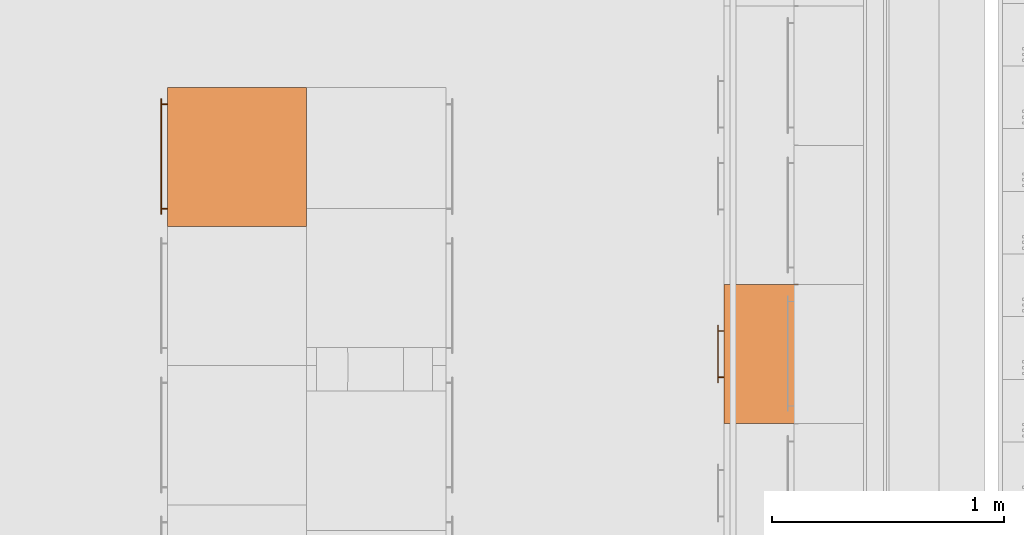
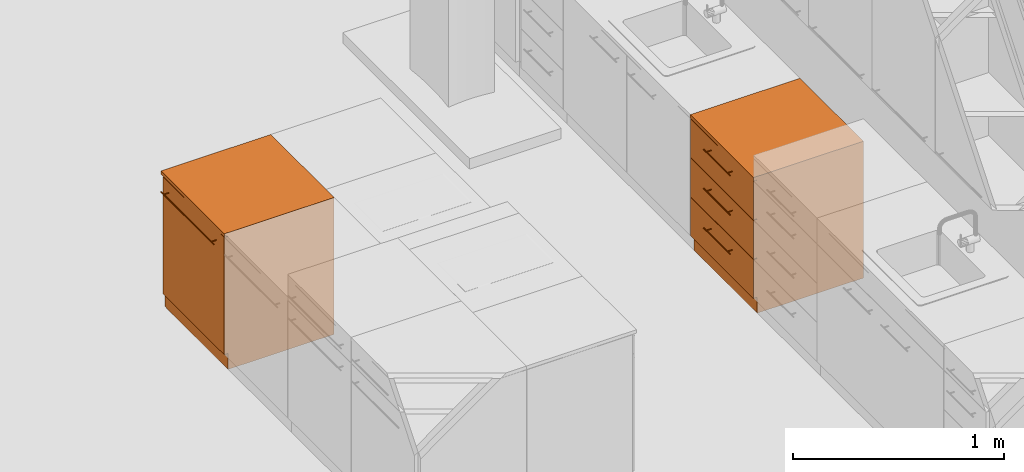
# One storey, part 147 of 167: 2 proxies.
"""IFC2X3 building model written with IfcOpenShell, lengths in millimetres."""

from ifc_helpers import new_model, entity, si_unit, converted_unit, derived_unit, money_unit, direction, frame, origin_with_axes, place, context, subcontext, project, spatial, open_shell, faceted_brep, surface_model, type_object, element, save


model = new_model("IFC2X3")

# Units and contexts
model_context = context("Model", 3, precision=0.01, world=origin_with_axes(), true_north=direction((0.0, 1.0)))
plan_context = context("Plan", 3, precision=0.01, world=origin_with_axes(), true_north=direction((0.0, 1.0)))
body_context = subcontext(model_context, "Body", "Model", "MODEL_VIEW")
ifc_project = project(units=[si_unit("LENGTHUNIT", "METRE", prefix="MILLI"), si_unit("AREAUNIT", "SQUARE_METRE"), si_unit("VOLUMEUNIT", "CUBIC_METRE"), converted_unit("PLANEANGLEUNIT", "DEGREE", entity("IfcPlaneAngleMeasure", 0.0174532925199), si_unit("PLANEANGLEUNIT", "RADIAN"), dimensions=[0, 0, 0, 0, 0, 0, 0]), si_unit("SOLIDANGLEUNIT", "STERADIAN"), money_unit("EUR"), converted_unit("TIMEUNIT", "Year", entity("IfcTimeMeasure", 31556926.0), si_unit("TIMEUNIT", "SECOND"), dimensions=[0, 0, 1, 0, 0, 0, 0]), si_unit("MASSUNIT", "GRAM", prefix="KILO"), si_unit("THERMODYNAMICTEMPERATUREUNIT", "DEGREE_CELSIUS"), si_unit("LUMINOUSINTENSITYUNIT", "LUMEN"), si_unit("ENERGYUNIT", "JOULE", prefix="MEGA"), derived_unit("THERMALCONDUCTANCEUNIT", [(si_unit("POWERUNIT", "WATT"), 1), (si_unit("LENGTHUNIT", "METRE"), -1), (si_unit("THERMODYNAMICTEMPERATUREUNIT", "KELVIN"), -1)]), derived_unit("SPECIFICHEATCAPACITYUNIT", [(si_unit("ENERGYUNIT", "JOULE"), 1), (si_unit("MASSUNIT", "GRAM", prefix="KILO"), -1), (si_unit("THERMODYNAMICTEMPERATUREUNIT", "KELVIN"), -1)]), derived_unit("MASSDENSITYUNIT", [(si_unit("MASSUNIT", "GRAM", prefix="KILO"), 1), (si_unit("VOLUMEUNIT", "CUBIC_METRE"), -1)])], contexts=[model_context, plan_context])

# Site, building, storey
site_placement = place(None, origin_with_axes())
site = spatial("IfcSite", under=ifc_project, at=site_placement, Name="Site", CompositionType="ELEMENT")
building_placement = place(site_placement, origin_with_axes())
building = spatial("IfcBuilding", under=site, at=building_placement, Name="Naam gebouw", CompositionType="ELEMENT")
storey_placement = place(building_placement, origin_with_axes())
storey = spatial("IfcBuildingStorey", under=building, at=storey_placement, Name="Begane grond", CompositionType="ELEMENT", Elevation=0.0)

# Proxies
building_element_proxy_type_1 = type_object("IfcBuildingElementProxyType", Name="Kast basis 1D 24", PredefinedType="NOTDEFINED")
proxy_1_placement = place(storey_placement, frame((25475.0, 28266.7322881, 0.0), z_axis=(0.0, 0.0, 1.0), x_axis=(0.0, -1.0, 0.0)))
element("IfcBuildingElementProxy", 1, at=proxy_1_placement, inside=storey, type_object=building_element_proxy_type_1, Name="__Object-x", context=body_context, shape_type="SurfaceModel", body=[
    faceted_brep([(20.0, 20.0, 0.0), (600.0, 20.0, 0.0), (600.0, 20.0, 90.0), (20.0, 20.0, 90.0), (20.0, 600.0, 0.0), (600.0, 600.0, 0.0), (600.0, 600.0, 90.0), (20.0, 600.0, 90.0)], [[[0, 1, 2, 3]], [[0, 4, 5, 1]], [[1, 5, 6, 2]], [[3, 2, 6, 7]], [[4, 0, 3, 7]], [[5, 4, 7, 6]]]),
    faceted_brep([(20.0, 20.0, 750.0), (40.0, 20.0, 750.0), (40.0, 20.0, 770.0), (20.0, 20.0, 770.0), (20.0, 600.0, 750.0), (40.0, 600.0, 750.0), (580.0, 600.0, 750.0), (600.0, 600.0, 750.0), (600.0, 20.0, 750.0), (580.0, 20.0, 750.0), (580.0, 20.0, 770.0), (600.0, 20.0, 770.0), (600.0, 600.0, 770.0), (580.0, 600.0, 770.0), (40.0, 600.0, 770.0), (20.0, 600.0, 770.0)], [[[0, 1, 2, 3]], [[0, 4, 5, 6, 7, 8, 9, 1]], [[1, 9, 10, 2]], [[3, 2, 10, 11, 12, 13, 14, 15]], [[4, 0, 3, 15]], [[5, 4, 15, 14]], [[6, 5, 14, 13]], [[7, 6, 13, 12]], [[8, 7, 12, 11]], [[9, 8, 11, 10]]]),
    faceted_brep([(20.0, 20.0, 90.0), (40.0, 20.0, 90.0), (40.0, 20.0, 110.0), (20.0, 20.0, 110.0), (20.0, 600.0, 90.0), (40.0, 600.0, 90.0), (580.0, 600.0, 90.0), (600.0, 600.0, 90.0), (600.0, 20.0, 90.0), (580.0, 20.0, 90.0), (580.0, 20.0, 110.0), (600.0, 20.0, 110.0), (600.0, 600.0, 110.0), (580.0, 600.0, 110.0), (40.0, 600.0, 110.0), (20.0, 600.0, 110.0)], [[[0, 1, 2, 3]], [[0, 4, 5, 6, 7, 8, 9, 1]], [[1, 9, 10, 2]], [[3, 2, 10, 11, 12, 13, 14, 15]], [[4, 0, 3, 15]], [[5, 4, 15, 14]], [[6, 5, 14, 13]], [[7, 6, 13, 12]], [[8, 7, 12, 11]], [[9, 8, 11, 10]]]),
    faceted_brep([(20.0, 20.0, 110.0), (40.0, 20.0, 110.0), (40.0, 20.0, 750.0), (20.0, 20.0, 750.0), (20.0, 600.0, 110.0), (600.0, 600.0, 110.0), (600.0, 20.0, 110.0), (580.0, 20.0, 110.0), (580.0, 580.0, 110.0), (40.0, 580.0, 110.0), (40.0, 580.0, 750.0), (580.0, 580.0, 750.0), (580.0, 20.0, 750.0), (600.0, 20.0, 750.0), (600.0, 600.0, 750.0), (20.0, 600.0, 750.0)], [[[0, 1, 2, 3]], [[0, 4, 5, 6, 7, 8, 9, 1]], [[1, 9, 10, 2]], [[3, 2, 10, 11, 12, 13, 14, 15]], [[4, 0, 3, 15]], [[5, 4, 15, 14]], [[6, 5, 14, 13]], [[7, 6, 13, 12]], [[8, 7, 12, 11]], [[9, 8, 11, 10]]]),
    faceted_brep([(580.0, 20.0, 410.0), (580.0, 580.0, 410.0), (580.0, 580.0, 430.0), (580.0, 20.0, 430.0), (40.0, 20.0, 410.0), (40.0, 580.0, 410.0), (40.0, 580.0, 430.0), (40.0, 20.0, 430.0)], [[[0, 1, 2, 3]], [[0, 4, 5, 1]], [[1, 5, 6, 2]], [[3, 2, 6, 7]], [[4, 0, 3, 7]], [[5, 4, 7, 6]]]),
    faceted_brep([(0.0, 0.0, 770.0), (600.0, 0.0, 770.0), (600.0, 0.0, 790.0), (0.0, 0.0, 790.0), (0.0, 600.0, 770.0), (600.0, 600.0, 770.0), (600.0, 600.0, 790.0), (0.0, 600.0, 790.0)], [[[0, 1, 2, 3]], [[0, 4, 5, 1]], [[1, 5, 6, 2]], [[3, 2, 6, 7]], [[4, 0, 3, 7]], [[5, 4, 7, 6]]]),
    faceted_brep([(21.5, 20.0, 91.5), (598.5, 20.0, 91.5), (598.5, 0.0, 91.5), (21.5, 0.0, 91.5), (21.5, 20.0, 768.5), (598.5, 20.0, 768.5), (598.5, 0.0, 768.5), (21.5, 0.0, 768.5)], [[[0, 1, 2, 3]], [[0, 4, 5, 1]], [[1, 5, 6, 2]], [[3, 2, 6, 7]], [[4, 0, 3, 7]], [[5, 4, 7, 6]]]),
    faceted_brep([(48.5, -28.1480502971, 704.694261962), (48.5, -29.1213203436, 705.344580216), (48.5, -29.7716385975, 706.317850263), (48.5, -30.0, 707.46590056), (48.5, -29.7716385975, 708.613950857), (48.5, -29.1213203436, 709.587220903), (48.5, -28.1480502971, 710.237539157), (48.5, -27.0, 710.46590056), (48.5, -25.8519497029, 710.237539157), (48.5, -24.8786796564, 709.587220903), (48.5, -24.2283614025, 708.613950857), (48.5, -24.0, 707.46590056), (48.5, -24.2283614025, 706.317850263), (48.5, -24.8786796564, 705.344580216), (48.5, -25.8519497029, 704.694261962), (48.5, -27.0, 704.46590056), (548.5, -28.1480502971, 704.694261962), (548.5, -29.1213203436, 705.344580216), (548.5, -29.7716385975, 706.317850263), (548.5, -30.0, 707.46590056), (548.5, -29.7716385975, 708.613950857), (548.5, -29.1213203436, 709.587220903), (548.5, -28.1480502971, 710.237539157), (548.5, -27.0, 710.46590056), (548.5, -25.8519497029, 710.237539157), (548.5, -24.8786796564, 709.587220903), (548.5, -24.2283614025, 708.613950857), (548.5, -24.0, 707.46590056), (548.5, -24.2283614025, 706.317850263), (548.5, -24.8786796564, 705.344580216), (548.5, -25.8519497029, 704.694261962), (548.5, -27.0, 704.46590056)], [[[0, 1, 2, 3, 4, 5, 6, 7, 8, 9, 10, 11, 12, 13, 14, 15]], [[1, 0, 16, 17]], [[2, 1, 17, 18]], [[3, 2, 18, 19]], [[4, 3, 19, 20]], [[5, 4, 20, 21]], [[6, 5, 21, 22]], [[7, 6, 22, 23]], [[8, 7, 23, 24]], [[9, 8, 24, 25]], [[10, 9, 25, 26]], [[11, 10, 26, 27]], [[12, 11, 27, 28]], [[13, 12, 28, 29]], [[14, 13, 29, 30]], [[15, 14, 30, 31]], [[0, 15, 31, 16]], [[16, 31, 30, 29, 28, 27, 26, 25, 24, 23, 22, 21, 20, 19, 18, 17]]]),
    surface_model("IfcShellBasedSurfaceModel", [(71.1903011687, -24.156637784, 706.509191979), (71.0, -24.0, 707.46590056), (71.0, 0.0, 707.46590056), (71.1903011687, 0.0, 706.509191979), (71.1903011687, -24.156637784, 708.422609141), (71.1903011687, 0.0, 708.422609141), (71.732233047, 0.0, 709.233667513), (72.5432914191, 0.0, 709.775599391), (73.5, 0.0, 709.96590056), (74.4567085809, 0.0, 709.775599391), (75.267766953, 0.0, 709.233667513), (75.8096988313, 0.0, 708.422609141), (76.0, 0.0, 707.46590056), (75.8096988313, 0.0, 706.509191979), (75.267766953, 0.0, 705.698133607), (74.4567085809, 0.0, 705.156201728), (73.5, 0.0, 704.96590056), (72.5432914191, 0.0, 705.156201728), (71.732233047, 0.0, 705.698133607), (71.732233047, -24.5761600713, 705.698133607), (71.732233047, -24.5761600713, 709.233667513), (72.5432914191, -25.0855049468, 709.775599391), (73.5, -25.3416876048, 709.96590056), (74.4567085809, -25.0855049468, 709.775599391), (75.267766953, -24.5761600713, 709.233667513), (75.8096988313, -24.156637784, 708.422609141), (76.0, -24.0, 707.46590056), (75.8096988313, -24.156637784, 706.509191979), (75.267766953, -24.5761600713, 705.698133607), (74.4567085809, -25.0855049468, 705.156201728), (73.5, -25.3416876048, 704.96590056), (72.5432914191, -25.0855049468, 705.156201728)], [open_shell([[[0, 1, 2, 3]], [[1, 4, 5, 2]], [[3, 2, 5, 6, 7, 8, 9, 10, 11, 12, 13, 14, 15, 16, 17, 18]], [[19, 0, 3, 18]], [[4, 20, 6, 5]], [[20, 21, 7, 6]], [[21, 22, 8, 7]], [[22, 23, 9, 8]], [[23, 24, 10, 9]], [[24, 25, 11, 10]], [[25, 26, 12, 11]], [[26, 27, 13, 12]], [[27, 28, 14, 13]], [[28, 29, 15, 14]], [[29, 30, 16, 15]], [[30, 31, 17, 16]], [[31, 19, 18, 17]]])]),
    surface_model("IfcShellBasedSurfaceModel", [(521.190301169, -24.156637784, 706.509191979), (521.0, -24.0, 707.46590056), (521.0, 0.0, 707.46590056), (521.190301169, 0.0, 706.509191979), (521.190301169, -24.156637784, 708.422609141), (521.190301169, 0.0, 708.422609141), (521.732233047, 0.0, 709.233667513), (522.543291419, 0.0, 709.775599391), (523.5, 0.0, 709.96590056), (524.456708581, 0.0, 709.775599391), (525.267766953, 0.0, 709.233667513), (525.809698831, 0.0, 708.422609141), (526.0, 0.0, 707.46590056), (525.809698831, 0.0, 706.509191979), (525.267766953, 0.0, 705.698133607), (524.456708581, 0.0, 705.156201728), (523.5, 0.0, 704.96590056), (522.543291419, 0.0, 705.156201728), (521.732233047, 0.0, 705.698133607), (521.732233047, -24.5761600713, 705.698133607), (521.732233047, -24.5761600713, 709.233667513), (522.543291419, -25.0855049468, 709.775599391), (523.5, -25.3416876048, 709.96590056), (524.456708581, -25.0855049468, 709.775599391), (525.267766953, -24.5761600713, 709.233667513), (525.809698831, -24.156637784, 708.422609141), (526.0, -24.0, 707.46590056), (525.809698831, -24.156637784, 706.509191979), (525.267766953, -24.5761600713, 705.698133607), (524.456708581, -25.0855049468, 705.156201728), (523.5, -25.3416876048, 704.96590056), (522.543291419, -25.0855049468, 705.156201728)], [open_shell([[[0, 1, 2, 3]], [[1, 4, 5, 2]], [[3, 2, 5, 6, 7, 8, 9, 10, 11, 12, 13, 14, 15, 16, 17, 18]], [[19, 0, 3, 18]], [[4, 20, 6, 5]], [[20, 21, 7, 6]], [[21, 22, 8, 7]], [[22, 23, 9, 8]], [[23, 24, 10, 9]], [[24, 25, 11, 10]], [[25, 26, 12, 11]], [[26, 27, 13, 12]], [[27, 28, 14, 13]], [[28, 29, 15, 14]], [[29, 30, 16, 15]], [[30, 31, 17, 16]], [[31, 19, 18, 17]]])]),
    faceted_brep([(20.0, 598.5, 1.5), (20.0, 21.5, 1.5), (0.0, 21.5, 1.5), (0.0, 598.5, 1.5), (20.0, 598.5, 768.5), (20.0, 21.5, 768.5), (0.0, 21.5, 768.5), (0.0, 598.5, 768.5)], [[[0, 1, 2, 3]], [[0, 4, 5, 1]], [[1, 5, 6, 2]], [[3, 2, 6, 7]], [[4, 0, 3, 7]], [[5, 4, 7, 6]]]),
])
building_element_proxy_type_2 = type_object("IfcBuildingElementProxyType", Name="Kast basis multilade 24", PredefinedType="NOTDEFINED")
proxy_2_placement = place(storey_placement, frame((27875.0, 27416.7322881, 0.0), z_axis=(0.0, 0.0, 1.0), x_axis=(0.0, -1.0, 0.0)))
element("IfcBuildingElementProxy", 2, at=proxy_2_placement, inside=storey, type_object=building_element_proxy_type_2, Name="__Object-x", context=body_context, shape_type="SurfaceModel", body=[
    faceted_brep([(1.5, 20.0, 91.5), (598.5, 20.0, 91.5), (598.5, 0.0, 91.5), (1.5, 0.0, 91.5), (1.5, 20.0, 315.166666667), (598.5, 20.0, 315.166666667), (598.5, 0.0, 315.166666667), (1.5, 0.0, 315.166666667)], [[[0, 1, 2, 3]], [[0, 4, 5, 1]], [[1, 5, 6, 2]], [[3, 2, 6, 7]], [[4, 0, 3, 7]], [[5, 4, 7, 6]]]),
    faceted_brep([(175.0, -28.1480502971, 248.895028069), (175.0, -29.1213203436, 249.545346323), (175.0, -29.7716385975, 250.51861637), (175.0, -30.0, 251.666666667), (175.0, -29.7716385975, 252.814716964), (175.0, -29.1213203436, 253.78798701), (175.0, -28.1480502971, 254.438305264), (175.0, -27.0, 254.666666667), (175.0, -25.8519497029, 254.438305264), (175.0, -24.8786796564, 253.78798701), (175.0, -24.2283614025, 252.814716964), (175.0, -24.0, 251.666666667), (175.0, -24.2283614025, 250.51861637), (175.0, -24.8786796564, 249.545346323), (175.0, -25.8519497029, 248.895028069), (175.0, -27.0, 248.666666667), (425.0, -28.1480502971, 248.895028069), (425.0, -29.1213203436, 249.545346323), (425.0, -29.7716385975, 250.51861637), (425.0, -30.0, 251.666666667), (425.0, -29.7716385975, 252.814716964), (425.0, -29.1213203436, 253.78798701), (425.0, -28.1480502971, 254.438305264), (425.0, -27.0, 254.666666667), (425.0, -25.8519497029, 254.438305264), (425.0, -24.8786796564, 253.78798701), (425.0, -24.2283614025, 252.814716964), (425.0, -24.0, 251.666666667), (425.0, -24.2283614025, 250.51861637), (425.0, -24.8786796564, 249.545346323), (425.0, -25.8519497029, 248.895028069), (425.0, -27.0, 248.666666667)], [[[0, 1, 2, 3, 4, 5, 6, 7, 8, 9, 10, 11, 12, 13, 14, 15]], [[1, 0, 16, 17]], [[2, 1, 17, 18]], [[3, 2, 18, 19]], [[4, 3, 19, 20]], [[5, 4, 20, 21]], [[6, 5, 21, 22]], [[7, 6, 22, 23]], [[8, 7, 23, 24]], [[9, 8, 24, 25]], [[10, 9, 25, 26]], [[11, 10, 26, 27]], [[12, 11, 27, 28]], [[13, 12, 28, 29]], [[14, 13, 29, 30]], [[15, 14, 30, 31]], [[0, 15, 31, 16]], [[16, 31, 30, 29, 28, 27, 26, 25, 24, 23, 22, 21, 20, 19, 18, 17]]]),
    surface_model("IfcShellBasedSurfaceModel", [(197.690301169, -24.156637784, 250.709958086), (197.5, -24.0, 251.666666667), (197.5, 0.0, 251.666666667), (197.690301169, 0.0, 250.709958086), (197.690301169, -24.156637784, 252.623375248), (197.690301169, 0.0, 252.623375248), (198.232233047, 0.0, 253.43443362), (199.043291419, 0.0, 253.976365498), (200.0, 0.0, 254.166666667), (200.956708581, 0.0, 253.976365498), (201.767766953, 0.0, 253.43443362), (202.309698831, 0.0, 252.623375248), (202.5, 0.0, 251.666666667), (202.309698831, 0.0, 250.709958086), (201.767766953, 0.0, 249.898899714), (200.956708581, 0.0, 249.356967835), (200.0, 0.0, 249.166666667), (199.043291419, 0.0, 249.356967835), (198.232233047, 0.0, 249.898899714), (198.232233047, -24.5761600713, 249.898899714), (198.232233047, -24.5761600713, 253.43443362), (199.043291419, -25.0855049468, 253.976365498), (200.0, -25.3416876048, 254.166666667), (200.956708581, -25.0855049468, 253.976365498), (201.767766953, -24.5761600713, 253.43443362), (202.309698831, -24.156637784, 252.623375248), (202.5, -24.0, 251.666666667), (202.309698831, -24.156637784, 250.709958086), (201.767766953, -24.5761600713, 249.898899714), (200.956708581, -25.0855049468, 249.356967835), (200.0, -25.3416876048, 249.166666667), (199.043291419, -25.0855049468, 249.356967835)], [open_shell([[[0, 1, 2, 3]], [[1, 4, 5, 2]], [[3, 2, 5, 6, 7, 8, 9, 10, 11, 12, 13, 14, 15, 16, 17, 18]], [[19, 0, 3, 18]], [[4, 20, 6, 5]], [[20, 21, 7, 6]], [[21, 22, 8, 7]], [[22, 23, 9, 8]], [[23, 24, 10, 9]], [[24, 25, 11, 10]], [[25, 26, 12, 11]], [[26, 27, 13, 12]], [[27, 28, 14, 13]], [[28, 29, 15, 14]], [[29, 30, 16, 15]], [[30, 31, 17, 16]], [[31, 19, 18, 17]]])]),
    surface_model("IfcShellBasedSurfaceModel", [(397.690301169, -24.156637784, 250.709958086), (397.5, -24.0, 251.666666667), (397.5, 0.0, 251.666666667), (397.690301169, 0.0, 250.709958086), (397.690301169, -24.156637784, 252.623375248), (397.690301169, 0.0, 252.623375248), (398.232233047, 0.0, 253.43443362), (399.043291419, 0.0, 253.976365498), (400.0, 0.0, 254.166666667), (400.956708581, 0.0, 253.976365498), (401.767766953, 0.0, 253.43443362), (402.309698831, 0.0, 252.623375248), (402.5, 0.0, 251.666666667), (402.309698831, 0.0, 250.709958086), (401.767766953, 0.0, 249.898899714), (400.956708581, 0.0, 249.356967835), (400.0, 0.0, 249.166666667), (399.043291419, 0.0, 249.356967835), (398.232233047, 0.0, 249.898899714), (398.232233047, -24.5761600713, 249.898899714), (398.232233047, -24.5761600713, 253.43443362), (399.043291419, -25.0855049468, 253.976365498), (400.0, -25.3416876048, 254.166666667), (400.956708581, -25.0855049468, 253.976365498), (401.767766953, -24.5761600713, 253.43443362), (402.309698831, -24.156637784, 252.623375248), (402.5, -24.0, 251.666666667), (402.309698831, -24.156637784, 250.709958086), (401.767766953, -24.5761600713, 249.898899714), (400.956708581, -25.0855049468, 249.356967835), (400.0, -25.3416876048, 249.166666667), (399.043291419, -25.0855049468, 249.356967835)], [open_shell([[[0, 1, 2, 3]], [[1, 4, 5, 2]], [[3, 2, 5, 6, 7, 8, 9, 10, 11, 12, 13, 14, 15, 16, 17, 18]], [[19, 0, 3, 18]], [[4, 20, 6, 5]], [[20, 21, 7, 6]], [[21, 22, 8, 7]], [[22, 23, 9, 8]], [[23, 24, 10, 9]], [[24, 25, 11, 10]], [[25, 26, 12, 11]], [[26, 27, 13, 12]], [[27, 28, 14, 13]], [[28, 29, 15, 14]], [[29, 30, 16, 15]], [[30, 31, 17, 16]], [[31, 19, 18, 17]]])]),
    faceted_brep([(1.5, 20.0, 318.166666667), (598.5, 20.0, 318.166666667), (598.5, 0.0, 318.166666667), (1.5, 0.0, 318.166666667), (1.5, 20.0, 541.833333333), (598.5, 20.0, 541.833333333), (598.5, 0.0, 541.833333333), (1.5, 0.0, 541.833333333)], [[[0, 1, 2, 3]], [[0, 4, 5, 1]], [[1, 5, 6, 2]], [[3, 2, 6, 7]], [[4, 0, 3, 7]], [[5, 4, 7, 6]]]),
    faceted_brep([(175.0, -28.1480502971, 475.561694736), (175.0, -29.1213203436, 476.21201299), (175.0, -29.7716385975, 477.185283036), (175.0, -30.0, 478.333333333), (175.0, -29.7716385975, 479.48138363), (175.0, -29.1213203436, 480.454653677), (175.0, -28.1480502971, 481.104971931), (175.0, -27.0, 481.333333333), (175.0, -25.8519497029, 481.104971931), (175.0, -24.8786796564, 480.454653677), (175.0, -24.2283614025, 479.48138363), (175.0, -24.0, 478.333333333), (175.0, -24.2283614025, 477.185283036), (175.0, -24.8786796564, 476.21201299), (175.0, -25.8519497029, 475.561694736), (175.0, -27.0, 475.333333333), (425.0, -28.1480502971, 475.561694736), (425.0, -29.1213203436, 476.21201299), (425.0, -29.7716385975, 477.185283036), (425.0, -30.0, 478.333333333), (425.0, -29.7716385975, 479.48138363), (425.0, -29.1213203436, 480.454653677), (425.0, -28.1480502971, 481.104971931), (425.0, -27.0, 481.333333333), (425.0, -25.8519497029, 481.104971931), (425.0, -24.8786796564, 480.454653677), (425.0, -24.2283614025, 479.48138363), (425.0, -24.0, 478.333333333), (425.0, -24.2283614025, 477.185283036), (425.0, -24.8786796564, 476.21201299), (425.0, -25.8519497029, 475.561694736), (425.0, -27.0, 475.333333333)], [[[0, 1, 2, 3, 4, 5, 6, 7, 8, 9, 10, 11, 12, 13, 14, 15]], [[1, 0, 16, 17]], [[2, 1, 17, 18]], [[3, 2, 18, 19]], [[4, 3, 19, 20]], [[5, 4, 20, 21]], [[6, 5, 21, 22]], [[7, 6, 22, 23]], [[8, 7, 23, 24]], [[9, 8, 24, 25]], [[10, 9, 25, 26]], [[11, 10, 26, 27]], [[12, 11, 27, 28]], [[13, 12, 28, 29]], [[14, 13, 29, 30]], [[15, 14, 30, 31]], [[0, 15, 31, 16]], [[16, 31, 30, 29, 28, 27, 26, 25, 24, 23, 22, 21, 20, 19, 18, 17]]]),
    surface_model("IfcShellBasedSurfaceModel", [(197.690301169, -24.156637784, 477.376624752), (197.5, -24.0, 478.333333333), (197.5, 0.0, 478.333333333), (197.690301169, 0.0, 477.376624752), (197.690301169, -24.156637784, 479.290041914), (197.690301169, 0.0, 479.290041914), (198.232233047, 0.0, 480.101100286), (199.043291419, 0.0, 480.643032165), (200.0, 0.0, 480.833333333), (200.956708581, 0.0, 480.643032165), (201.767766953, 0.0, 480.101100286), (202.309698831, 0.0, 479.290041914), (202.5, 0.0, 478.333333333), (202.309698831, 0.0, 477.376624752), (201.767766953, 0.0, 476.56556638), (200.956708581, 0.0, 476.023634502), (200.0, 0.0, 475.833333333), (199.043291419, 0.0, 476.023634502), (198.232233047, 0.0, 476.56556638), (198.232233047, -24.5761600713, 476.56556638), (198.232233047, -24.5761600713, 480.101100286), (199.043291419, -25.0855049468, 480.643032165), (200.0, -25.3416876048, 480.833333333), (200.956708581, -25.0855049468, 480.643032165), (201.767766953, -24.5761600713, 480.101100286), (202.309698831, -24.156637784, 479.290041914), (202.5, -24.0, 478.333333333), (202.309698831, -24.156637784, 477.376624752), (201.767766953, -24.5761600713, 476.56556638), (200.956708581, -25.0855049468, 476.023634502), (200.0, -25.3416876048, 475.833333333), (199.043291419, -25.0855049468, 476.023634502)], [open_shell([[[0, 1, 2, 3]], [[1, 4, 5, 2]], [[3, 2, 5, 6, 7, 8, 9, 10, 11, 12, 13, 14, 15, 16, 17, 18]], [[19, 0, 3, 18]], [[4, 20, 6, 5]], [[20, 21, 7, 6]], [[21, 22, 8, 7]], [[22, 23, 9, 8]], [[23, 24, 10, 9]], [[24, 25, 11, 10]], [[25, 26, 12, 11]], [[26, 27, 13, 12]], [[27, 28, 14, 13]], [[28, 29, 15, 14]], [[29, 30, 16, 15]], [[30, 31, 17, 16]], [[31, 19, 18, 17]]])]),
    surface_model("IfcShellBasedSurfaceModel", [(397.690301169, -24.156637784, 477.376624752), (397.5, -24.0, 478.333333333), (397.5, 0.0, 478.333333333), (397.690301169, 0.0, 477.376624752), (397.690301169, -24.156637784, 479.290041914), (397.690301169, 0.0, 479.290041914), (398.232233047, 0.0, 480.101100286), (399.043291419, 0.0, 480.643032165), (400.0, 0.0, 480.833333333), (400.956708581, 0.0, 480.643032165), (401.767766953, 0.0, 480.101100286), (402.309698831, 0.0, 479.290041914), (402.5, 0.0, 478.333333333), (402.309698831, 0.0, 477.376624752), (401.767766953, 0.0, 476.56556638), (400.956708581, 0.0, 476.023634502), (400.0, 0.0, 475.833333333), (399.043291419, 0.0, 476.023634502), (398.232233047, 0.0, 476.56556638), (398.232233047, -24.5761600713, 476.56556638), (398.232233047, -24.5761600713, 480.101100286), (399.043291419, -25.0855049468, 480.643032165), (400.0, -25.3416876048, 480.833333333), (400.956708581, -25.0855049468, 480.643032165), (401.767766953, -24.5761600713, 480.101100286), (402.309698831, -24.156637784, 479.290041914), (402.5, -24.0, 478.333333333), (402.309698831, -24.156637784, 477.376624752), (401.767766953, -24.5761600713, 476.56556638), (400.956708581, -25.0855049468, 476.023634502), (400.0, -25.3416876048, 475.833333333), (399.043291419, -25.0855049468, 476.023634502)], [open_shell([[[0, 1, 2, 3]], [[1, 4, 5, 2]], [[3, 2, 5, 6, 7, 8, 9, 10, 11, 12, 13, 14, 15, 16, 17, 18]], [[19, 0, 3, 18]], [[4, 20, 6, 5]], [[20, 21, 7, 6]], [[21, 22, 8, 7]], [[22, 23, 9, 8]], [[23, 24, 10, 9]], [[24, 25, 11, 10]], [[25, 26, 12, 11]], [[26, 27, 13, 12]], [[27, 28, 14, 13]], [[28, 29, 15, 14]], [[29, 30, 16, 15]], [[30, 31, 17, 16]], [[31, 19, 18, 17]]])]),
    faceted_brep([(20.0, 20.0, 316.666666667), (580.0, 20.0, 316.666666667), (580.0, 20.0, 336.666666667), (20.0, 20.0, 336.666666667), (20.0, 580.0, 316.666666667), (580.0, 580.0, 316.666666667), (580.0, 580.0, 336.666666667), (20.0, 580.0, 336.666666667)], [[[0, 1, 2, 3]], [[0, 4, 5, 1]], [[1, 5, 6, 2]], [[3, 2, 6, 7]], [[4, 0, 3, 7]], [[5, 4, 7, 6]]]),
    faceted_brep([(1.5, 20.0, 544.833333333), (598.5, 20.0, 544.833333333), (598.5, 0.0, 544.833333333), (1.5, 0.0, 544.833333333), (1.5, 20.0, 768.5), (598.5, 20.0, 768.5), (598.5, 0.0, 768.5), (1.5, 0.0, 768.5)], [[[0, 1, 2, 3]], [[0, 4, 5, 1]], [[1, 5, 6, 2]], [[3, 2, 6, 7]], [[4, 0, 3, 7]], [[5, 4, 7, 6]]]),
    faceted_brep([(175.0, -28.1480502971, 702.228361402), (175.0, -29.1213203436, 702.878679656), (175.0, -29.7716385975, 703.851949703), (175.0, -30.0, 705.0), (175.0, -29.7716385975, 706.148050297), (175.0, -29.1213203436, 707.121320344), (175.0, -28.1480502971, 707.771638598), (175.0, -27.0, 708.0), (175.0, -25.8519497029, 707.771638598), (175.0, -24.8786796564, 707.121320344), (175.0, -24.2283614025, 706.148050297), (175.0, -24.0, 705.0), (175.0, -24.2283614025, 703.851949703), (175.0, -24.8786796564, 702.878679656), (175.0, -25.8519497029, 702.228361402), (175.0, -27.0, 702.0), (425.0, -28.1480502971, 702.228361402), (425.0, -29.1213203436, 702.878679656), (425.0, -29.7716385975, 703.851949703), (425.0, -30.0, 705.0), (425.0, -29.7716385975, 706.148050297), (425.0, -29.1213203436, 707.121320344), (425.0, -28.1480502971, 707.771638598), (425.0, -27.0, 708.0), (425.0, -25.8519497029, 707.771638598), (425.0, -24.8786796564, 707.121320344), (425.0, -24.2283614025, 706.148050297), (425.0, -24.0, 705.0), (425.0, -24.2283614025, 703.851949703), (425.0, -24.8786796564, 702.878679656), (425.0, -25.8519497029, 702.228361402), (425.0, -27.0, 702.0)], [[[0, 1, 2, 3, 4, 5, 6, 7, 8, 9, 10, 11, 12, 13, 14, 15]], [[1, 0, 16, 17]], [[2, 1, 17, 18]], [[3, 2, 18, 19]], [[4, 3, 19, 20]], [[5, 4, 20, 21]], [[6, 5, 21, 22]], [[7, 6, 22, 23]], [[8, 7, 23, 24]], [[9, 8, 24, 25]], [[10, 9, 25, 26]], [[11, 10, 26, 27]], [[12, 11, 27, 28]], [[13, 12, 28, 29]], [[14, 13, 29, 30]], [[15, 14, 30, 31]], [[0, 15, 31, 16]], [[16, 31, 30, 29, 28, 27, 26, 25, 24, 23, 22, 21, 20, 19, 18, 17]]]),
    surface_model("IfcShellBasedSurfaceModel", [(197.690301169, -24.156637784, 704.043291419), (197.5, -24.0, 705.0), (197.5, 0.0, 705.0), (197.690301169, 0.0, 704.043291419), (197.690301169, -24.156637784, 705.956708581), (197.690301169, 0.0, 705.956708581), (198.232233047, 0.0, 706.767766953), (199.043291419, 0.0, 707.309698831), (200.0, 0.0, 707.5), (200.956708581, 0.0, 707.309698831), (201.767766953, 0.0, 706.767766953), (202.309698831, 0.0, 705.956708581), (202.5, 0.0, 705.0), (202.309698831, 0.0, 704.043291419), (201.767766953, 0.0, 703.232233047), (200.956708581, 0.0, 702.690301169), (200.0, 0.0, 702.5), (199.043291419, 0.0, 702.690301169), (198.232233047, 0.0, 703.232233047), (198.232233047, -24.5761600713, 703.232233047), (198.232233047, -24.5761600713, 706.767766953), (199.043291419, -25.0855049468, 707.309698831), (200.0, -25.3416876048, 707.5), (200.956708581, -25.0855049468, 707.309698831), (201.767766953, -24.5761600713, 706.767766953), (202.309698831, -24.156637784, 705.956708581), (202.5, -24.0, 705.0), (202.309698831, -24.156637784, 704.043291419), (201.767766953, -24.5761600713, 703.232233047), (200.956708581, -25.0855049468, 702.690301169), (200.0, -25.3416876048, 702.5), (199.043291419, -25.0855049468, 702.690301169)], [open_shell([[[0, 1, 2, 3]], [[1, 4, 5, 2]], [[3, 2, 5, 6, 7, 8, 9, 10, 11, 12, 13, 14, 15, 16, 17, 18]], [[19, 0, 3, 18]], [[4, 20, 6, 5]], [[20, 21, 7, 6]], [[21, 22, 8, 7]], [[22, 23, 9, 8]], [[23, 24, 10, 9]], [[24, 25, 11, 10]], [[25, 26, 12, 11]], [[26, 27, 13, 12]], [[27, 28, 14, 13]], [[28, 29, 15, 14]], [[29, 30, 16, 15]], [[30, 31, 17, 16]], [[31, 19, 18, 17]]])]),
    surface_model("IfcShellBasedSurfaceModel", [(397.690301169, -24.156637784, 704.043291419), (397.5, -24.0, 705.0), (397.5, 0.0, 705.0), (397.690301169, 0.0, 704.043291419), (397.690301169, -24.156637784, 705.956708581), (397.690301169, 0.0, 705.956708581), (398.232233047, 0.0, 706.767766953), (399.043291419, 0.0, 707.309698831), (400.0, 0.0, 707.5), (400.956708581, 0.0, 707.309698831), (401.767766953, 0.0, 706.767766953), (402.309698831, 0.0, 705.956708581), (402.5, 0.0, 705.0), (402.309698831, 0.0, 704.043291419), (401.767766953, 0.0, 703.232233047), (400.956708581, 0.0, 702.690301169), (400.0, 0.0, 702.5), (399.043291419, 0.0, 702.690301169), (398.232233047, 0.0, 703.232233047), (398.232233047, -24.5761600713, 703.232233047), (398.232233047, -24.5761600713, 706.767766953), (399.043291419, -25.0855049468, 707.309698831), (400.0, -25.3416876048, 707.5), (400.956708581, -25.0855049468, 707.309698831), (401.767766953, -24.5761600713, 706.767766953), (402.309698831, -24.156637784, 705.956708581), (402.5, -24.0, 705.0), (402.309698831, -24.156637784, 704.043291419), (401.767766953, -24.5761600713, 703.232233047), (400.956708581, -25.0855049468, 702.690301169), (400.0, -25.3416876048, 702.5), (399.043291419, -25.0855049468, 702.690301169)], [open_shell([[[0, 1, 2, 3]], [[1, 4, 5, 2]], [[3, 2, 5, 6, 7, 8, 9, 10, 11, 12, 13, 14, 15, 16, 17, 18]], [[19, 0, 3, 18]], [[4, 20, 6, 5]], [[20, 21, 7, 6]], [[21, 22, 8, 7]], [[22, 23, 9, 8]], [[23, 24, 10, 9]], [[24, 25, 11, 10]], [[25, 26, 12, 11]], [[26, 27, 13, 12]], [[27, 28, 14, 13]], [[28, 29, 15, 14]], [[29, 30, 16, 15]], [[30, 31, 17, 16]], [[31, 19, 18, 17]]])]),
    faceted_brep([(20.0, 20.0, 543.333333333), (580.0, 20.0, 543.333333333), (580.0, 20.0, 563.333333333), (20.0, 20.0, 563.333333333), (20.0, 580.0, 543.333333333), (580.0, 580.0, 543.333333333), (580.0, 580.0, 563.333333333), (20.0, 580.0, 563.333333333)], [[[0, 1, 2, 3]], [[0, 4, 5, 1]], [[1, 5, 6, 2]], [[3, 2, 6, 7]], [[4, 0, 3, 7]], [[5, 4, 7, 6]]]),
    faceted_brep([(0.0, 20.0, 0.0), (600.0, 20.0, 0.0), (600.0, 20.0, 90.0), (0.0, 20.0, 90.0), (0.0, 600.0, 0.0), (600.0, 600.0, 0.0), (600.0, 600.0, 90.0), (0.0, 600.0, 90.0)], [[[0, 1, 2, 3]], [[0, 4, 5, 1]], [[1, 5, 6, 2]], [[3, 2, 6, 7]], [[4, 0, 3, 7]], [[5, 4, 7, 6]]]),
    faceted_brep([(0.0, 20.0, 750.0), (20.0, 20.0, 750.0), (20.0, 20.0, 770.0), (0.0, 20.0, 770.0), (0.0, 600.0, 750.0), (20.0, 600.0, 750.0), (580.0, 600.0, 750.0), (600.0, 600.0, 750.0), (600.0, 20.0, 750.0), (580.0, 20.0, 750.0), (580.0, 20.0, 770.0), (600.0, 20.0, 770.0), (600.0, 600.0, 770.0), (580.0, 600.0, 770.0), (20.0, 600.0, 770.0), (0.0, 600.0, 770.0)], [[[0, 1, 2, 3]], [[0, 4, 5, 6, 7, 8, 9, 1]], [[1, 9, 10, 2]], [[3, 2, 10, 11, 12, 13, 14, 15]], [[4, 0, 3, 15]], [[5, 4, 15, 14]], [[6, 5, 14, 13]], [[7, 6, 13, 12]], [[8, 7, 12, 11]], [[9, 8, 11, 10]]]),
    faceted_brep([(0.0, 20.0, 90.0), (20.0, 20.0, 90.0), (20.0, 20.0, 110.0), (0.0, 20.0, 110.0), (0.0, 600.0, 90.0), (20.0, 600.0, 90.0), (580.0, 600.0, 90.0), (600.0, 600.0, 90.0), (600.0, 20.0, 90.0), (580.0, 20.0, 90.0), (580.0, 20.0, 110.0), (600.0, 20.0, 110.0), (600.0, 600.0, 110.0), (580.0, 600.0, 110.0), (20.0, 600.0, 110.0), (0.0, 600.0, 110.0)], [[[0, 1, 2, 3]], [[0, 4, 5, 6, 7, 8, 9, 1]], [[1, 9, 10, 2]], [[3, 2, 10, 11, 12, 13, 14, 15]], [[4, 0, 3, 15]], [[5, 4, 15, 14]], [[6, 5, 14, 13]], [[7, 6, 13, 12]], [[8, 7, 12, 11]], [[9, 8, 11, 10]]]),
    faceted_brep([(0.0, 20.0, 110.0), (20.0, 20.0, 110.0), (20.0, 20.0, 750.0), (0.0, 20.0, 750.0), (0.0, 600.0, 110.0), (600.0, 600.0, 110.0), (600.0, 20.0, 110.0), (580.0, 20.0, 110.0), (580.0, 580.0, 110.0), (20.0, 580.0, 110.0), (20.0, 580.0, 750.0), (580.0, 580.0, 750.0), (580.0, 20.0, 750.0), (600.0, 20.0, 750.0), (600.0, 600.0, 750.0), (0.0, 600.0, 750.0)], [[[0, 1, 2, 3]], [[0, 4, 5, 6, 7, 8, 9, 1]], [[1, 9, 10, 2]], [[3, 2, 10, 11, 12, 13, 14, 15]], [[4, 0, 3, 15]], [[5, 4, 15, 14]], [[6, 5, 14, 13]], [[7, 6, 13, 12]], [[8, 7, 12, 11]], [[9, 8, 11, 10]]]),
    faceted_brep([(0.0, 0.0, 770.0), (600.0, 0.0, 770.0), (600.0, 0.0, 790.0), (0.0, 0.0, 790.0), (0.0, 600.0, 770.0), (600.0, 600.0, 770.0), (600.0, 600.0, 790.0), (0.0, 600.0, 790.0)], [[[0, 1, 2, 3]], [[0, 4, 5, 1]], [[1, 5, 6, 2]], [[3, 2, 6, 7]], [[4, 0, 3, 7]], [[5, 4, 7, 6]]]),
])

save(model, "model.ifc")
